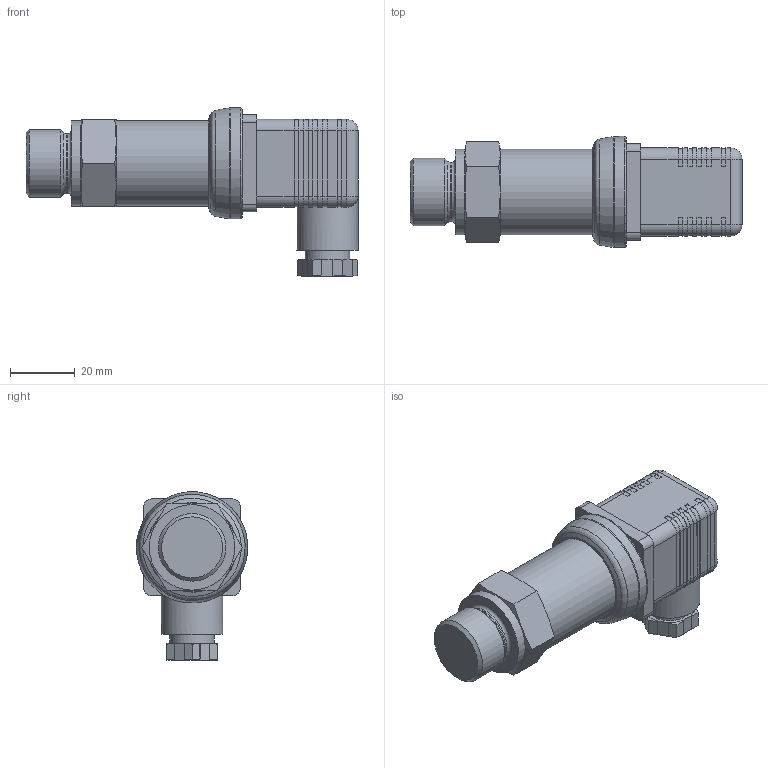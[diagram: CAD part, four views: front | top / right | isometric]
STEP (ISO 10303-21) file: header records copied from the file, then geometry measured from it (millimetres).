
FILE_DESCRIPTION(/* description */ (''),/* implementation_level */ '2;1');
FILE_NAME(/* name */ 'C:\Users\cz1166\OneDrive - BD SENSORS s.r.o\Documents\STEP\DMK331-25x-xxxx-x-x-100-100-x-x-x-000.stp',/* time_stamp */ '2020-12-14T11:51:31+01:00',/* author */ ('cz1166'),/* organization */ (''),/* preprocessor_version */ 'ST-DEVELOPER v16.5',/* originating_system */ 'Autodesk Inventor 2017',/* authorisation */ '');
FILE_SCHEMA (('AUTOMOTIVE_DESIGN { 1 0 10303 214 3 1 1 }'));
Length unit declared in the file: millimetre
Products named in the file (1): DMK331-25x-xxxx-x-x-100-100-x-x-x-000
Bounding box: 102.9 x 34.45 x 52.16 mm (x, y, z)
Volume: 70215.5 mm3; surface area: 12762.2 mm2
Topology: 1 solids, 1 shells, 226 faces, 627 edges, 404 vertices
Faces by surface type: plane 138, cylinder 60, cone 18, torus 6, sphere 4
Full cylindrical faces by diameter (mm): 13.76 x1, 18.4 x1, 19 x1, 20.955 x1, 26.5 x2, 34.5 x1
Entity records: 7059 total; most frequent: CARTESIAN_POINT 1361, ORIENTED_EDGE 1200, DIRECTION 1156, EDGE_CURVE 600, VERTEX_POINT 400, AXIS2_PLACEMENT_3D 391, LINE 374, VECTOR 374
